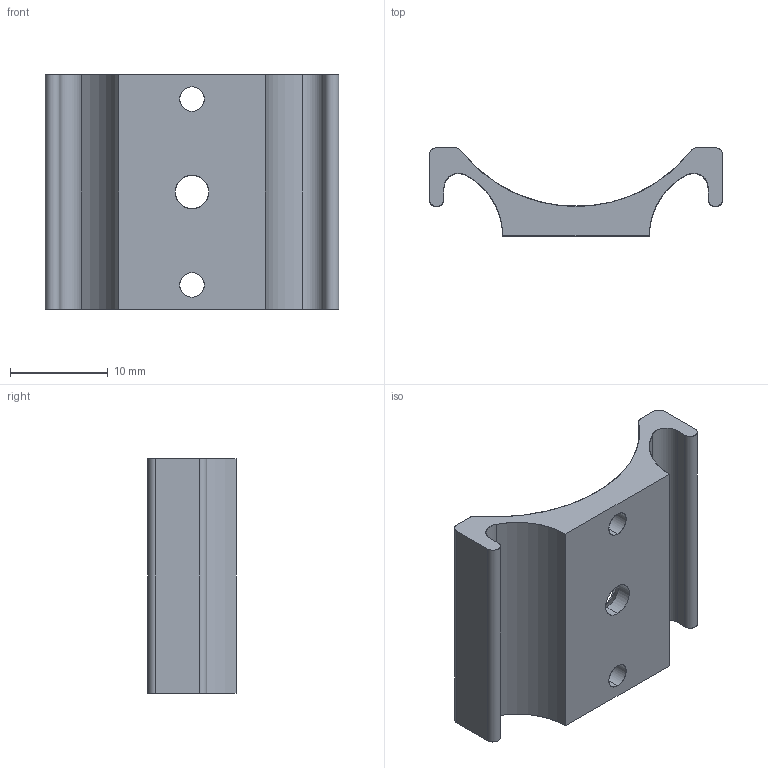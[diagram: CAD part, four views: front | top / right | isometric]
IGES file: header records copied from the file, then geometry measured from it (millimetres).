
Start section: SolidWorks IGES file using analytic representation for surfaces
Global section: file name: C:\Users\Jonathan\Dropbox\BR-Engineering\Models\LUMEN-LIGHT-X1-PUBLIC\LUMEN-M-MOUNT-X1.IGS; native system: SolidWorks 2014; preprocessor: SolidWorks 2014; author: Jonathan; date: 160217.122849; units: millimetre
Bounding box: 30 x 9 x 24 mm (x, y, z)
Surface area: 2326.2 mm2 (no closed solid volume)
Topology: 0 solids, 0 shells, 30 faces, 532 edges, 532 vertices
Faces by surface type: revolution 21, bspline 9
